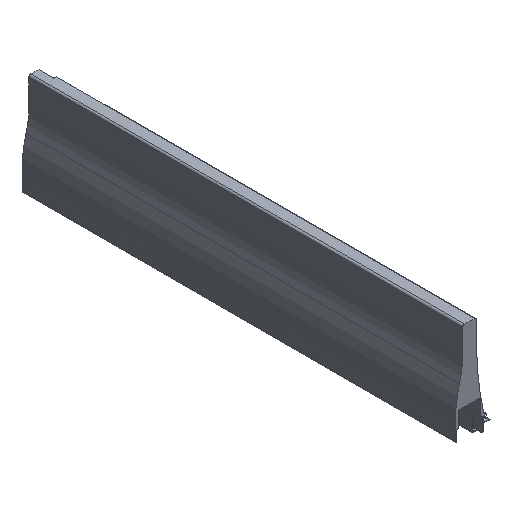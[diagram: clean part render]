
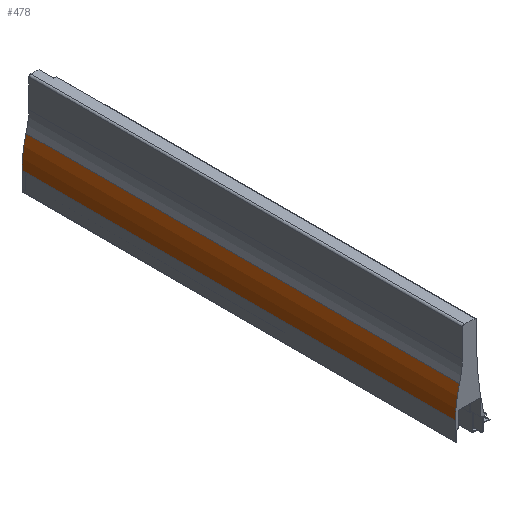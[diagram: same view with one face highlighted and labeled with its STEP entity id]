
A CAD part, isometric view. The second image highlights one B-rep face of the part: STEP entity #478.
In plain terms, the highlighted cylindrical face has radius 130.3 mm (diameter 260.6 mm), a partial arc.
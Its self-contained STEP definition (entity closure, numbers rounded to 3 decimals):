
#19 = AXIS2_PLACEMENT_3D ( 'NONE', #2741, #2733, #2736 ) ;
#174 = AXIS2_PLACEMENT_3D ( 'NONE', #3703, #3709, #3710 ) ;
#191 = EDGE_CURVE ( 'NONE', #561, #623, #1288, .T. ) ;
#211 = AXIS2_PLACEMENT_3D ( 'NONE', #3400, #3421, #3423 ) ;
#311 = CIRCLE ( 'NONE', #211, 130.3 ) ;
#478 = ADVANCED_FACE ( 'NONE', ( #1115 ), #1116, .T. ) ;
#561 = VERTEX_POINT ( 'NONE', #2854 ) ;
#623 = VERTEX_POINT ( 'NONE', #2901 ) ;
#649 = VERTEX_POINT ( 'NONE', #2927 ) ;
#775 = DIRECTION ( 'NONE',  ( 0., -1., 0. ) ) ;
#811 = VERTEX_POINT ( 'NONE', #3048 ) ;
#885 = CARTESIAN_POINT ( 'NONE',  ( -4.1, 490., -7.695 ) ) ;
#1115 = FACE_OUTER_BOUND ( 'NONE', #1937, .T. ) ;
#1116 = CYLINDRICAL_SURFACE ( 'NONE', #19, 130.3 ) ;
#1288 = LINE ( 'NONE', #885, #1291 ) ;
#1291 = VECTOR ( 'NONE', #775, 1000. ) ;
#1685 = ORIENTED_EDGE ( 'NONE', *, *, #191, .T. ) ;
#1818 = ORIENTED_EDGE ( 'NONE', *, *, #4133, .F. ) ;
#1819 = ORIENTED_EDGE ( 'NONE', *, *, #4152, .T. ) ;
#1820 = ORIENTED_EDGE ( 'NONE', *, *, #3662, .F. ) ;
#1937 = EDGE_LOOP ( 'NONE', ( #1820, #1818, #1819, #1685 ) ) ;
#2733 = DIRECTION ( 'NONE',  ( 0., -1., 0. ) ) ;
#2736 = DIRECTION ( 'NONE',  ( -1., 0., 0. ) ) ;
#2741 = CARTESIAN_POINT ( 'NONE',  ( 126.2, 490., -7.695 ) ) ;
#2854 = CARTESIAN_POINT ( 'NONE',  ( -4.1, 490., -7.695 ) ) ;
#2901 = CARTESIAN_POINT ( 'NONE',  ( -4.1, 0., -7.695 ) ) ;
#2927 = CARTESIAN_POINT ( 'NONE',  ( 0.401, 0., 26.255 ) ) ;
#3048 = CARTESIAN_POINT ( 'NONE',  ( 0.401, 490., 26.255 ) ) ;
#3400 = CARTESIAN_POINT ( 'NONE',  ( 126.2, 0., -7.695 ) ) ;
#3421 = DIRECTION ( 'NONE',  ( 0., -1., 0. ) ) ;
#3423 = DIRECTION ( 'NONE',  ( 1., 0., 0. ) ) ;
#3650 = CARTESIAN_POINT ( 'NONE',  ( 0.401, 490., 26.255 ) ) ;
#3662 = EDGE_CURVE ( 'NONE', #649, #623, #311, .T. ) ;
#3668 = DIRECTION ( 'NONE',  ( 0., -1., 0. ) ) ;
#3703 = CARTESIAN_POINT ( 'NONE',  ( 126.2, 490., -7.695 ) ) ;
#3709 = DIRECTION ( 'NONE',  ( 0., -1., 0. ) ) ;
#3710 = DIRECTION ( 'NONE',  ( 1., 0., 0. ) ) ;
#3839 = LINE ( 'NONE', #3650, #3868 ) ;
#3868 = VECTOR ( 'NONE', #3668, 1000. ) ;
#3898 = CIRCLE ( 'NONE', #174, 130.3 ) ;
#4133 = EDGE_CURVE ( 'NONE', #811, #649, #3839, .T. ) ;
#4152 = EDGE_CURVE ( 'NONE', #811, #561, #3898, .T. ) ;
